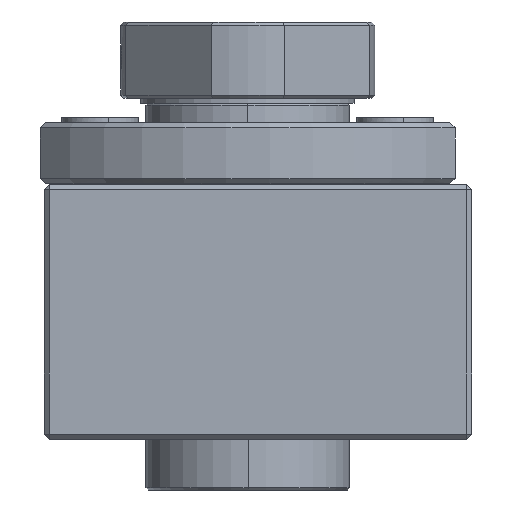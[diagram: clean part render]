
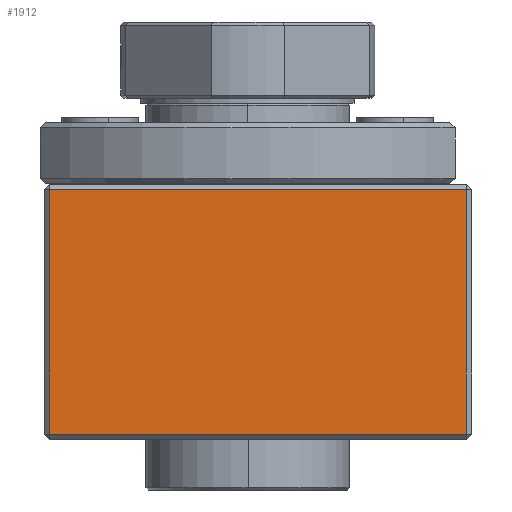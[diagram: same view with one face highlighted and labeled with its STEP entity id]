
A CAD part, left-side view. The second image highlights one B-rep face of the part: STEP entity #1912.
In plain terms, the highlighted planar face has unit normal (-1, 0, 0).
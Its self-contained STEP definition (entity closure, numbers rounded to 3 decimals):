
#378 = EDGE_LOOP ( 'NONE', ( #8687, #8688, #8689, #8690 ) ) ;
#1912 = ADVANCED_FACE ( 'NONE', ( #6284 ), #6651, .F. ) ;
#2883 = VERTEX_POINT ( 'NONE', #8499 ) ;
#2884 = VERTEX_POINT ( 'NONE', #8500 ) ;
#2889 = VERTEX_POINT ( 'NONE', #8505 ) ;
#2890 = VERTEX_POINT ( 'NONE', #8506 ) ;
#3861 = LINE ( 'NONE', #8551, #3866 ) ;
#3862 = LINE ( 'NONE', #8545, #3864 ) ;
#3864 = VECTOR ( 'NONE', #8546, 1000. ) ;
#3865 = LINE ( 'NONE', #8556, #3868 ) ;
#3866 = VECTOR ( 'NONE', #8555, 1000. ) ;
#3867 = LINE ( 'NONE', #8558, #3870 ) ;
#3868 = VECTOR ( 'NONE', #8557, 1000. ) ;
#3870 = VECTOR ( 'NONE', #8559, 1000. ) ;
#5413 = EDGE_CURVE ( 'NONE', #2883, #2884, #3862, .T. ) ;
#5414 = EDGE_CURVE ( 'NONE', #2884, #2889, #3861, .T. ) ;
#5415 = EDGE_CURVE ( 'NONE', #2889, #2890, #3865, .T. ) ;
#5416 = EDGE_CURVE ( 'NONE', #2890, #2883, #3867, .T. ) ;
#6284 = FACE_OUTER_BOUND ( 'NONE', #378, .T. ) ;
#6649 = DIRECTION ( 'NONE',  ( 0., 0., -1. ) ) ;
#6650 = DIRECTION ( 'NONE',  ( 1., 0., 0. ) ) ;
#6651 = PLANE ( 'NONE',  #6953 ) ;
#6654 = CARTESIAN_POINT ( 'NONE',  ( -40., -22., 12.5 ) ) ;
#6953 = AXIS2_PLACEMENT_3D ( 'NONE', #6654, #6650, #6649 ) ;
#8499 = CARTESIAN_POINT ( 'NONE',  ( -40., 19.5, 12. ) ) ;
#8500 = CARTESIAN_POINT ( 'NONE',  ( -40., 19.5, -12. ) ) ;
#8505 = CARTESIAN_POINT ( 'NONE',  ( -40., -21.5, -12. ) ) ;
#8506 = CARTESIAN_POINT ( 'NONE',  ( -40., -21.5, 12. ) ) ;
#8545 = CARTESIAN_POINT ( 'NONE',  ( -40., 19.5, 12.5 ) ) ;
#8546 = DIRECTION ( 'NONE',  ( 0., 0., -1. ) ) ;
#8551 = CARTESIAN_POINT ( 'NONE',  ( -40., -22., -12. ) ) ;
#8555 = DIRECTION ( 'NONE',  ( 0., -1., 0. ) ) ;
#8556 = CARTESIAN_POINT ( 'NONE',  ( -40., -21.5, 12.5 ) ) ;
#8557 = DIRECTION ( 'NONE',  ( 0., 0., 1. ) ) ;
#8558 = CARTESIAN_POINT ( 'NONE',  ( -40., -22., 12. ) ) ;
#8559 = DIRECTION ( 'NONE',  ( 0., 1., 0. ) ) ;
#8687 = ORIENTED_EDGE ( 'NONE', *, *, #5413, .T. ) ;
#8688 = ORIENTED_EDGE ( 'NONE', *, *, #5414, .T. ) ;
#8689 = ORIENTED_EDGE ( 'NONE', *, *, #5415, .T. ) ;
#8690 = ORIENTED_EDGE ( 'NONE', *, *, #5416, .T. ) ;
